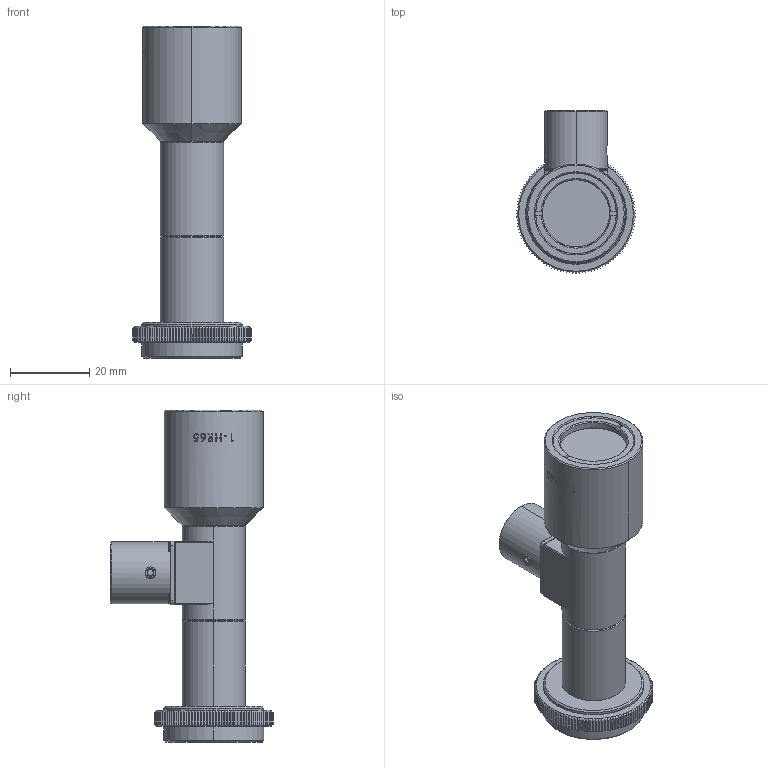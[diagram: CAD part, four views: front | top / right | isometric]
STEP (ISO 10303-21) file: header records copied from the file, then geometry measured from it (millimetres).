
FILE_DESCRIPTION (( 'STEP AP203' ), '1' );
FILE_NAME ('MML1-HR65D_A03409A0100101A-001.STEP', '2013-04-01T01:05:32', ( 'MML Group' ), ( 'MORITEX' ), 'SwSTEP 2.0', 'SolidWorks 2011', '' );
FILE_SCHEMA (( 'CONFIG_CONTROL_DESIGN' ));
Length unit declared in the file: millimetre
Products named in the file (1): MML1-HR65D_A03409A0100101A-001
Bounding box: 30 x 41 x 83.98 mm (x, y, z)
Volume: 25359.8 mm3; surface area: 10590.8 mm2
Topology: 1 solids, 12 shells, 706 faces, 1827 edges, 1153 vertices
Faces by surface type: plane 436, cone 129, cylinder 86, bspline 31, torus 16, sphere 8
Entity records: 24752 total; most frequent: CARTESIAN_POINT 8739, ORIENTED_EDGE 3622, DIRECTION 2894, EDGE_CURVE 1811, AXIS2_PLACEMENT_3D 1155, VERTEX_POINT 1153, EDGE_LOOP 746, B_SPLINE_CURVE_WITH_KNOTS 724
